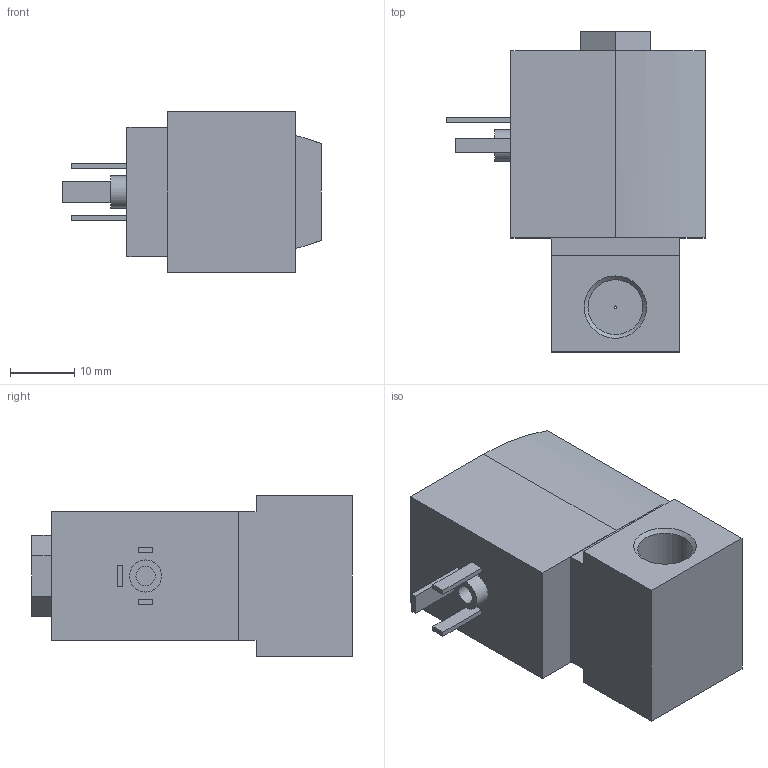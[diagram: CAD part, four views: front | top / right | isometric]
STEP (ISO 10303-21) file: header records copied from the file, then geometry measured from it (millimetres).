
FILE_DESCRIPTION( ( 'STEP AP214' ), '1' );
FILE_NAME( 'p:/temp/worker_36/temp/app_49_02018110216482392460429192d056f_000000_00_00_000000/format_0/6011-134106-2_2-Way-mini-solenoid-valve.stp', '2018-11-02T15:48:24', ( '' ), ( '' ), ' ', 'PARTsolutions', ' ' );
FILE_SCHEMA( ( 'AUTOMOTIVE_DESIGN { 1 0 10303 214 1 1 1 1 }' ) );
Length unit declared in the file: millimetre
Products named in the file (1): _6011-134106-2/2-Way-mini-solenoid-valve
Bounding box: 40.3 x 50 x 25 mm (x, y, z)
Volume: 25281.3 mm3; surface area: 6570.7 mm2
Topology: 1 solids, 1 shells, 53 faces, 123 edges, 80 vertices
Faces by surface type: plane 44, cylinder 7, cone 2
Full cylindrical faces by diameter (mm): 0.4 x1, 3 x1, 5 x1, 8.566 x2
Entity records: 1898 total; most frequent: CARTESIAN_POINT 250, DIRECTION 244, ORIENTED_EDGE 232, EDGE_CURVE 116, LINE 96, VECTOR 96, VERTEX_POINT 80, AXIS2_PLACEMENT_3D 74
